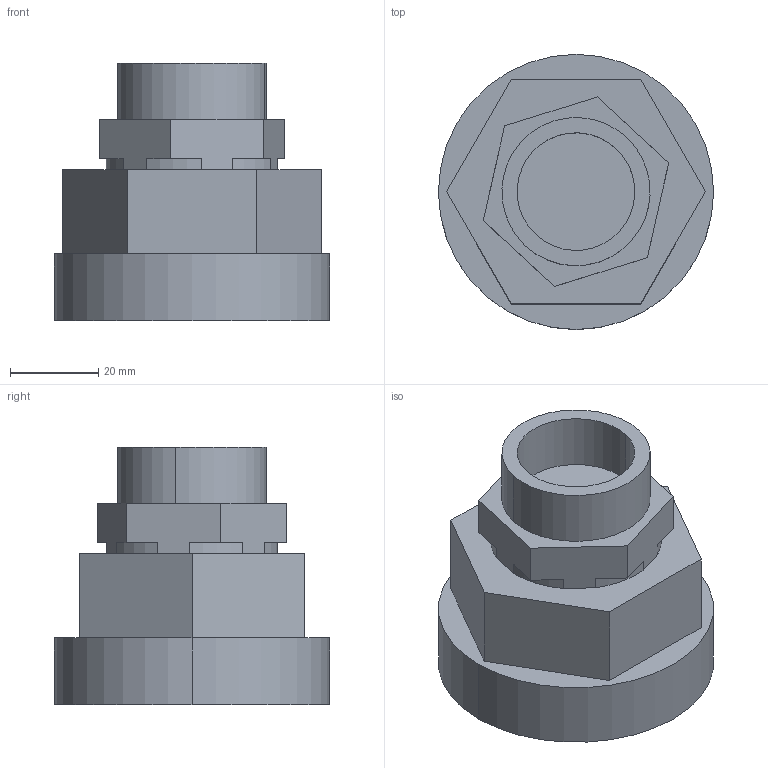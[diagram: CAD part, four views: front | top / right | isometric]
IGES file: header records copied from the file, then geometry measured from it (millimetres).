
Start section: SolidWorks IGES file using analytic representation for surfaces
Global section: file name: S:\Product Visuals\Pumps to be Defeatured\140 fittings\FITTING ASSEMBLIES\DEFEATURED\top-out\16-weldable-top-out.IGS; native system: SolidWorks 2012; preprocessor: SolidWorks 2012; author: rachel.dressel; date: 121203.155523; units: inch
Bounding box: 62.33 x 62.33 x 58.29 mm (x, y, z)
Volume: 107042.6 mm3; surface area: 16473.8 mm2
Topology: 1 solids, 1 shells, 36 faces, 90 edges, 60 vertices
Faces by surface type: plane 24, revolution 12
